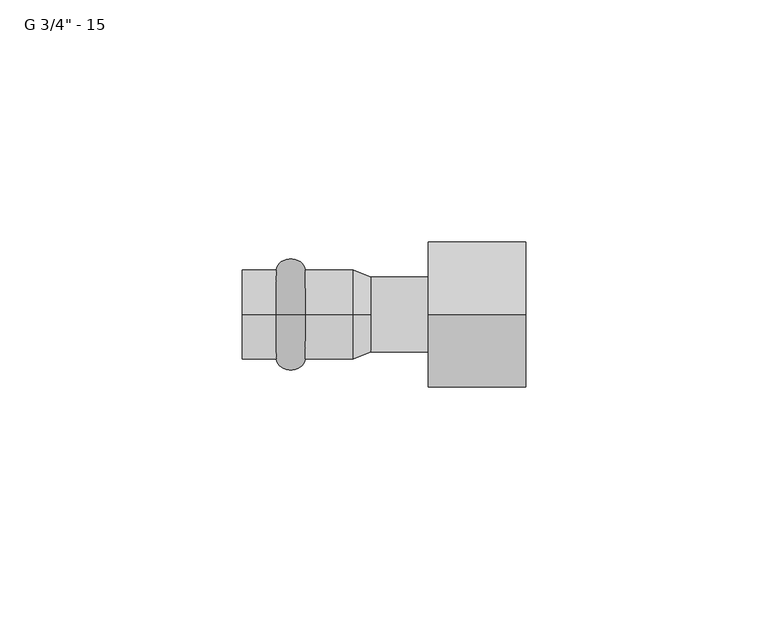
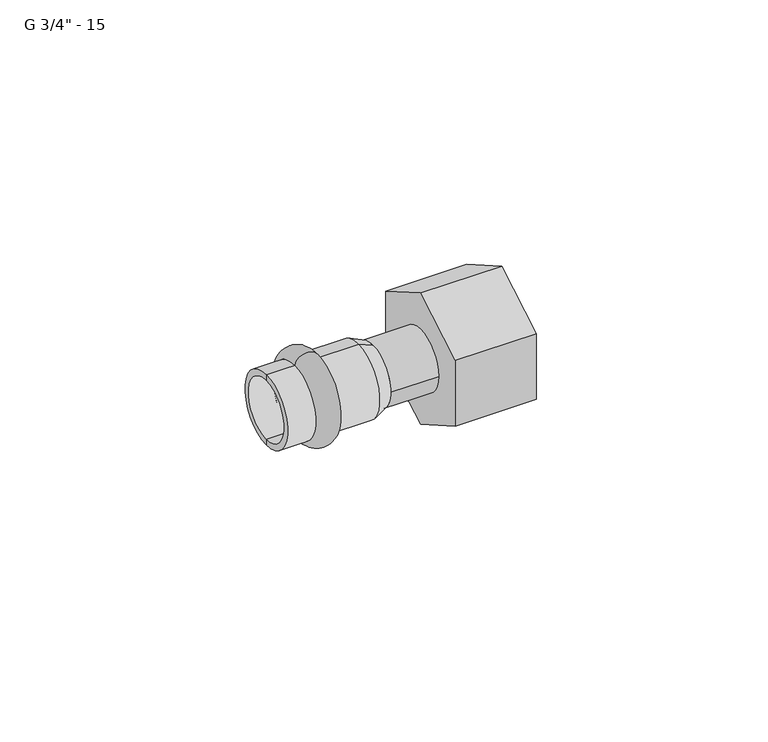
"""IFC4 building model written with IfcOpenShell, lengths in millimetres: pipe fitting geometry."""

from ifc_helpers import new_model, si_unit, point, frame, origin, origin_2d, place, context, project, spatial, polyline, circle_curve, ellipse_curve, trimmed, segment, composite_curve, outline, extrude, source, transform, mapped, element, save
from ifc_brep_helpers import plane_surface, cylinder_surface, revolved_surface, advanced_brep


def pipe_fitting_ea9a7392(model_context):
    return source(origin(), model_context, "Body", "SolidModel", [
        advanced_brep(
        [(-15.9, 0.0, 9.25), (-15.9, 0.0, -9.25), (-10.0, 0.0, -9.25), (-10.0, 0.0, 9.25)],
        [
            (0, 1, circle_curve(frame((-15.9, 0.0, 0.0), z_axis=(-1.0, 0.0, 0.0), x_axis=(0.0, 0.0, -1.0)), 9.25)),
            (1, 2),
            (2, 3, circle_curve(frame((-10.0, 0.0, 0.0), z_axis=(1.0, 0.0, 0.0), x_axis=(0.0, 0.0, -1.0)), 9.25)),
            (3, 0),
            (1, 0, circle_curve(frame((-15.9, 0.0, 0.0), z_axis=(-1.0, 0.0, 0.0), x_axis=(0.0, 0.0, -1.0)), 9.25)),
            (3, 2, circle_curve(frame((-10.0, 0.0, 0.0), z_axis=(1.0, 0.0, 0.0), x_axis=(0.0, 0.0, -1.0)), 9.25)),
            (2, 1, ellipse_curve(frame((-12.95, 0.0, -9.25), z_axis=(0.0, 1.0, 0.0), x_axis=(-1.0, 0.0, 0.0)), 2.95, 2.3)),
            (0, 3, ellipse_curve(frame((-12.95, 0.0, 9.25), z_axis=(0.0, 1.0, 0.0), x_axis=(-1.0, 0.0, 0.0)), 2.95, 2.3)),
        ],
        [
            revolved_surface(polyline([(-10.0, 0.0, -9.25), (-15.899999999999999, 0.0, -9.25)]), (3.0, 0.0, 0.0), (1.0, 0.0, 0.0)),
            revolved_surface(trimmed(ellipse_curve(frame((-12.95, 0.0, -9.25), z_axis=(0.0, -1.0, 0.0), x_axis=(-1.0, 0.0, 0.0)), 2.95, 2.3), [point((-15.9, 0.0, -9.25))], [point((-10.0, 0.0, -9.25))], True, "CARTESIAN"), (3.0, 0.0, 0.0), (1.0, 0.0, 0.0)),
        ],
        [
            (0, [[1, 2, 3, 4]]),
            (0, [[5, -4, 6, -2]]),
            (1, [[-3, 7, -1, 8]]),
            (1, [[-6, -8, -5, -7]]),
        ],
    ),
        advanced_brep(
        [(3.5337785, 0.0, 7.75), (3.5337785, 0.0, -7.75), (0.0, 0.0, -9.25), (0.0, 0.0, 9.25), (-23.0, 0.0, 7.75), (-23.0, 0.0, -7.75), (-23.0, 0.0, 9.25), (-23.0, 0.0, -9.25)],
        [
            (0, 1, circle_curve(frame((3.5337785, 0.0, 0.0), z_axis=(-1.0, 0.0, 0.0), x_axis=(0.0, 0.0, -1.0)), 7.75)),
            (1, 2),
            (2, 3, circle_curve(frame((0.0, 0.0, 0.0), z_axis=(1.0, 0.0, 0.0), x_axis=(0.0, 0.0, -1.0)), 9.25)),
            (3, 0),
            (1, 0, circle_curve(frame((3.5337785, 0.0, 0.0), z_axis=(-1.0, 0.0, 0.0), x_axis=(0.0, 0.0, -1.0)), 7.75)),
            (3, 2, circle_curve(frame((0.0, 0.0, 0.0), z_axis=(1.0, 0.0, 0.0), x_axis=(0.0, 0.0, -1.0)), 9.25)),
            (4, 5, circle_curve(frame((-23.0, 0.0, 0.0), z_axis=(-1.0, 0.0, 0.0), x_axis=(0.0, 0.0, -1.0)), 7.75)),
            (5, 1),
            (0, 4),
            (5, 4, circle_curve(frame((-23.0, 0.0, 0.0), z_axis=(-1.0, 0.0, 0.0), x_axis=(0.0, 0.0, -1.0)), 7.75)),
            (6, 7, circle_curve(frame((-23.0, 0.0, 0.0), z_axis=(-1.0, 0.0, 0.0), x_axis=(0.0, 0.0, -1.0)), 9.25)),
            (7, 5),
            (4, 6),
            (7, 6, circle_curve(frame((-23.0, 0.0, 0.0), z_axis=(-1.0, 0.0, 0.0), x_axis=(0.0, 0.0, -1.0)), 9.25)),
            (2, 7),
            (6, 3),
        ],
        [
            revolved_surface(polyline([(0.0, 0.0, -9.25), (3.5337785, 0.0, -7.75)]), (3.0, 0.0, 0.0), (1.0, 0.0, 0.0)),
            revolved_surface(polyline([(3.5337785, 0.0, -7.75), (-23.0, 0.0, -7.75)]), (3.0, 0.0, 0.0), (1.0, 0.0, 0.0)),
            plane_surface(frame((-23.0, 0.0, 0.0), z_axis=(-1.0, 0.0, 0.0), x_axis=(0.0, 0.0, -1.0))),
            cylinder_surface(frame((3.0, 0.0, 0.0), z_axis=(1.0, 0.0, 0.0), x_axis=(0.0, 0.0, -1.0)), 9.25),
        ],
        [
            (0, [[1, 2, 3, 4]]),
            (0, [[5, -4, 6, -2]]),
            (1, [[7, 8, -1, 9]]),
            (1, [[10, -9, -5, -8]]),
            (2, [[11, 12, -7, 13]]),
            (2, [[14, -13, -10, -12]]),
            (3, [[-3, 15, -11, 16]]),
            (3, [[-6, -16, -14, -15]]),
        ],
    ),
        extrude(outline(composite_curve([segment(trimmed(circle_curve(origin_2d(), 7.75), [point((-7.75, 0.0))], [point((7.75, 0.0))], False, "CARTESIAN"), True, "CONTINUOUS"), segment(trimmed(circle_curve(origin_2d(), 7.75), [point((7.75, 0.0))], [point((-7.75, 0.0))], False, "CARTESIAN"), True, "CONTINUOUS")], self_intersect=False)), frame((3.5337785, 0.0, 0.0), z_axis=(1.0, 0.0, 0.0), x_axis=(0.0, 1.0, 0.0)), (0.0, 0.0, 1.0), 11.9),
        advanced_brep(
        [(35.6337785, -15.0, -8.660254), (15.4337785, -15.0, -8.660254), (15.4337785, 0.0, -17.3205081), (35.6337785, 0.0, -17.3205081), (15.4337785, 15.0, -8.660254), (35.6337785, 15.0, -8.660254), (35.6337785, 15.0, 8.660254), (15.4337785, 15.0, 8.660254), (15.4337785, 0.0, 17.3205081), (35.6337785, 0.0, 17.3205081), (15.4337785, -15.0, 8.660254), (35.6337785, -15.0, 8.660254), (35.6337785, -13.25, 0.0), (35.6337785, 13.25, 0.0), (15.4337785, -5.0, -2.8867513), (15.4337785, 0.0, -5.7735027), (15.4337785, 5.0, -2.8867513), (15.4337785, 5.0, 2.8867513), (15.4337785, 0.0, 5.7735027), (15.4337785, -5.0, 2.8867513), (20.2337785, -13.25, 0.0), (20.2337785, 13.25, 0.0), (20.2337785, 0.0, -5.7735027), (20.2337785, -5.0, -2.8867513), (20.2337785, -5.0, 2.8867513), (20.2337785, 0.0, 5.7735027), (20.2337785, 5.0, 2.8867513), (20.2337785, 5.0, -2.8867513)],
        [
            (0, 1),
            (1, 2),
            (2, 3),
            (3, 0),
            (2, 4),
            (4, 5),
            (5, 3),
            (6, 7),
            (7, 8),
            (8, 9),
            (9, 6),
            (8, 10),
            (10, 11),
            (11, 9),
            (4, 7),
            (6, 5),
            (11, 0),
            (12, 13, circle_curve(frame((35.6337785, 0.0, 0.0), z_axis=(-1.0, 0.0, 0.0), x_axis=(0.0, 1.0, 0.0)), 13.25)),
            (13, 12, circle_curve(frame((35.6337785, 0.0, 0.0), z_axis=(-1.0, 0.0, 0.0), x_axis=(0.0, 1.0, 0.0)), 13.25)),
            (1, 10),
            (14, 15),
            (15, 16),
            (16, 17),
            (17, 18),
            (18, 19),
            (19, 14),
            (20, 21, circle_curve(frame((20.2337785, 0.0, 0.0), z_axis=(1.0, 0.0, 0.0), x_axis=(0.0, 1.0, 0.0)), 13.25)),
            (21, 20, circle_curve(frame((20.2337785, 0.0, 0.0), z_axis=(1.0, 0.0, 0.0), x_axis=(0.0, 1.0, 0.0)), 13.25)),
            (22, 23),
            (23, 24),
            (24, 25),
            (25, 26),
            (26, 27),
            (27, 22),
            (21, 13),
            (12, 20),
            (14, 23),
            (22, 15),
            (27, 16),
            (17, 26),
            (25, 18),
            (24, 19),
        ],
        [
            plane_surface(frame((15.4337785, -15.0, -8.660254), z_axis=(0.0, -0.5000000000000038, -0.8660254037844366), x_axis=(0.0, 0.8660254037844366, -0.5000000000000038))),
            plane_surface(frame((15.4337785, 0.0, -17.3205081), z_axis=(0.0, 0.4999999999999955, -0.8660254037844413), x_axis=(0.0, 0.8660254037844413, 0.4999999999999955))),
            plane_surface(frame((15.4337785, 15.0, 8.660254), z_axis=(0.0, 0.5000000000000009, 0.8660254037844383), x_axis=(0.0, -0.8660254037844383, 0.5000000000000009))),
            plane_surface(frame((15.4337785, 0.0, 17.3205081), z_axis=(0.0, -0.4999999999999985, 0.8660254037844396), x_axis=(0.0, -0.8660254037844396, -0.4999999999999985))),
            plane_surface(frame((15.4337785, 15.0, -8.660254), z_axis=(0.0, 1.0, 0.0), x_axis=(0.0, 0.0, 1.0))),
            plane_surface(frame((35.6337785, -15.0, 8.660254), z_axis=(1.0, 0.0, 0.0), x_axis=(0.0, 0.0, -1.0))),
            plane_surface(frame((15.4337785, -5.0, 2.8867513), z_axis=(-1.0, 0.0, 0.0), x_axis=(0.0, 0.0, -1.0))),
            plane_surface(frame((15.4337785, -15.0, 8.660254), z_axis=(0.0, -1.0, 0.0), x_axis=(0.0, 0.0, -1.0))),
            plane_surface(frame((20.2337785, 13.25, 0.0), z_axis=(1.0, 0.0, 0.0), x_axis=(0.0, 0.0, -1.0))),
            revolved_surface(polyline([(35.6337785, 13.25, 0.0), (20.2337785, 13.25, 0.0)]), (20.2337785, 0.0, 0.0), (1.0, 0.0, 0.0)),
            plane_surface(frame((35.6337785, -5.0, -2.8867513), z_axis=(0.0, 0.5000000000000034, 0.8660254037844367), x_axis=(0.0, 0.8660254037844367, -0.5000000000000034))),
            plane_surface(frame((35.6337785, 0.0, -5.7735027), z_axis=(0.0, -0.49999999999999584, 0.8660254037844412), x_axis=(0.0, 0.8660254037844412, 0.49999999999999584))),
            plane_surface(frame((35.6337785, 5.0, 2.8867513), z_axis=(0.0, -0.500000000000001, -0.8660254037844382), x_axis=(0.0, -0.8660254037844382, 0.500000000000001))),
            plane_surface(frame((35.6337785, 0.0, 5.7735027), z_axis=(0.0, 0.49999999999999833, -0.8660254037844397), x_axis=(0.0, -0.8660254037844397, -0.49999999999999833))),
            plane_surface(frame((35.6337785, 5.0, -2.8867513), z_axis=(0.0, -1.0, 0.0), x_axis=(0.0, 0.0, 1.0))),
            plane_surface(frame((35.6337785, -5.0, 2.8867513), z_axis=(0.0, 1.0, 0.0), x_axis=(0.0, 0.0, -1.0))),
        ],
        [
            (0, [[1, 2, 3, 4]]),
            (1, [[-3, 5, 6, 7]]),
            (2, [[8, 9, 10, 11]]),
            (3, [[-10, 12, 13, 14]]),
            (4, [[-6, 15, -8, 16]]),
            (5, [[-4, -7, -16, -11, -14, 17], [18, 19]]),
            (6, [[-2, 20, -12, -9, -15, -5], [21, 22, 23, 24, 25, 26]]),
            (7, [[-1, -17, -13, -20]]),
            (8, [[27, 28], [29, 30, 31, 32, 33, 34]]),
            (9, [[-28, 35, -18, 36]]),
            (9, [[-27, -36, -19, -35]]),
            (10, [[-21, 37, -29, 38]]),
            (11, [[-22, -38, -34, 39]]),
            (12, [[-24, 40, -32, 41]]),
            (13, [[-25, -41, -31, 42]]),
            (14, [[-23, -39, -33, -40]]),
            (15, [[-26, -42, -30, -37]]),
        ],
    ),
    ])


if __name__ == "__main__":
    model = new_model("IFC4")
    model_context = context("Model", 3, world=origin())
    ifc_project = project(units=[si_unit("LENGTHUNIT", "METRE", prefix="MILLI")], contexts=[model_context])
    site = spatial("IfcSite", under=ifc_project)
    building = spatial("IfcBuilding", under=site)
    placement = place(None, origin())
    pipe_fitting_shape = pipe_fitting_ea9a7392(model_context)
    element("IfcPipeFitting", 1, ObjectType="РЕХАУ_Пресс Муфта с накидной гайкой : G 3/4\" - 15", at=placement, inside=building, context=model_context, shape_type="MappedRepresentation", body=[
        mapped(pipe_fitting_shape, transform((0.0, 0.0, 0.0), x_axis=(1.0, 0.0, 0.0), y_axis=(0.0, 1.0, 0.0), z_axis=(0.0, 0.0, 1.0))),
    ])
    save(model, "model.ifc")
